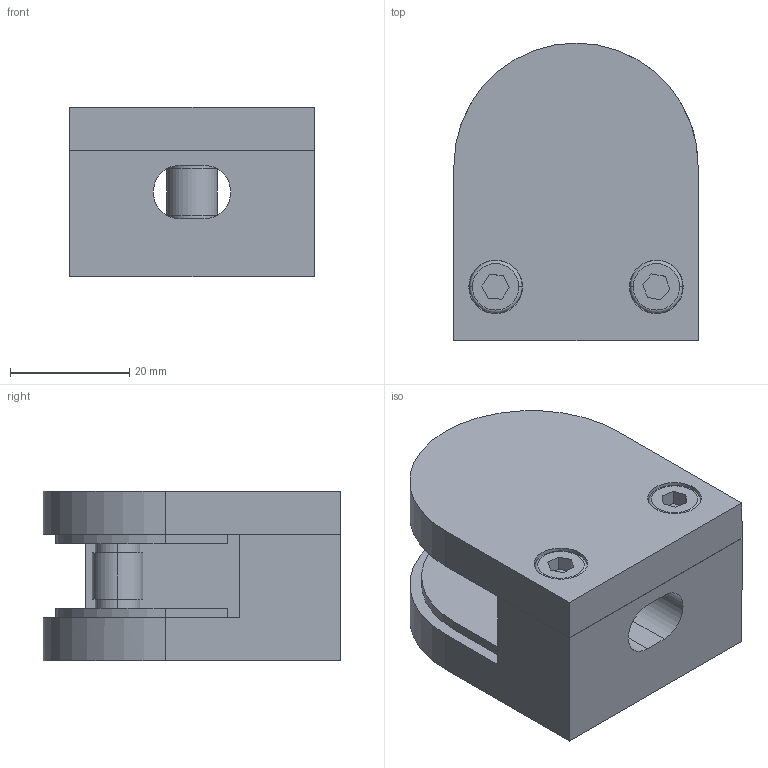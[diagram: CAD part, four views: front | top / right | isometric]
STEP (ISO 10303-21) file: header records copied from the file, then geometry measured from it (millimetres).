
FILE_DESCRIPTION (( 'STEP AP203' ), '1' );
FILE_NAME ('3D_GG4002_Flach x10.76_188758180.STEP', '2024-11-01T11:31:03', ( '' ), ( '' ), 'SwSTEP 2.0', 'SolidWorks 2023', '' );
FILE_SCHEMA (( 'CONFIG_CONTROL_DESIGN' ));
Length unit declared in the file: millimetre
Products named in the file (1): 3D_GG4002_Flach x10.76_188758180
Bounding box: 41 x 50 x 28.5 mm (x, y, z)
Volume: 39660.5 mm3; surface area: 19470.1 mm2
Topology: 7 solids, 7 shells, 117 faces, 259 edges, 170 vertices
Faces by surface type: plane 63, cylinder 46, torus 4, cone 4
Entity records: 3339 total; most frequent: DIRECTION 600, CARTESIAN_POINT 547, ORIENTED_EDGE 518, EDGE_CURVE 259, AXIS2_PLACEMENT_3D 223, VERTEX_POINT 170, LINE 154, VECTOR 154
